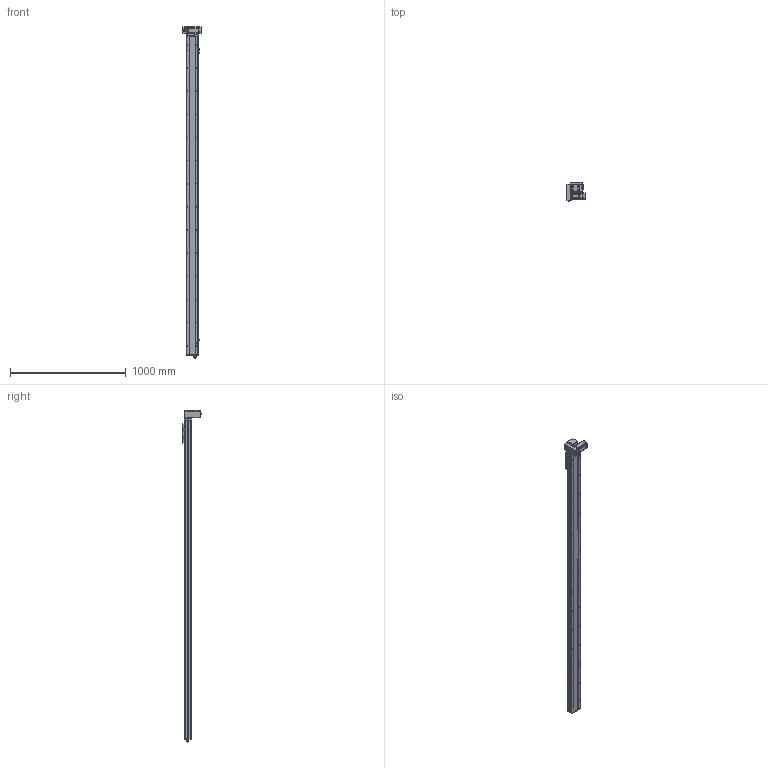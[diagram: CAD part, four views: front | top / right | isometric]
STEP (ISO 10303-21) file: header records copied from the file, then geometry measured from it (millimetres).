
FILE_DESCRIPTION (( 'STEP AP214' ), '1' );
FILE_NAME ('TPE10-L41.6-2500-LD-P20-C4.STEP', '2023-03-13T00:41:24', ( '' ), ( '' ), 'SwSTEP 2.0', 'SolidWorks 2020', '' );
FILE_SCHEMA (( 'AUTOMOTIVE_DESIGN' ));
Length unit declared in the file: millimetre
Products named in the file (16): hexagon head bolts-full thread gb_GB_FASTENER_BOLT_STBAB A M5X16-N; 葩璃 TPE10-L-002 耜裔ZTMT-102B-04^TPE10-L41.6-LD-P20-C4; 葩璃 TPT10-L-009 萇儂啣^TPE10-L41.6-LD-P20-C4_200W; TPE10-L41.6-2500-LD-P20-C4; 葩璃 TPE10 賑雄殤 TPE10^TPE10-L41.6-LD-P20-C4; hexagon socket head cap screws gb_GB_FASTENER_SCREWS_HSHCS M3X6-N; 葩璃 pm-t65-672^TPE10-L41.6-LD-P20-C4; 葩璃 侂狟100W^TPE10-L41.6-LD-P20-C4; 葩璃 侂狟400W^TPE10-L41.6-LD-P20-C4; 葩璃 詩湍75^TPE10-L41.6-LD-P20-C4; 葩璃 TPE10-007 々湍釱MZ-169x88^TPE10-L41.6-LD-P20-C4; 葩璃 TPF10 詩湍揤啣 TPF10 12^TPE10-L41.6-LD-P20-C4; hex nuts, style 1-grades ab gb_GB_FASTENER_NUT_SNAB1 M3-N; 葩璃 TPE10-L-001 菁釱MZ-102A-01^TPE10-L41.6-LD-P20-C4; 葩璃 TPF10-L-008 耜醱啣^TPE10-L41.6-LD-P20-C4; 葩璃 PL8-02^TPE10-L41.6-LD-P20-C4
Assembly tree (29 placements, depth 2):
  TPE10-L41.6-2500-LD-P20-C4
    葩璃 TPE10-L-001 菁釱MZ-102A-01^TPE10-L41.6-LD-P20-C4
    葩璃 TPE10-L-002 耜裔ZTMT-102B-04^TPE10-L41.6-LD-P20-C4  x2
    葩璃 詩湍75^TPE10-L41.6-LD-P20-C4
    葩璃 TPE10-007 々湍釱MZ-169x88^TPE10-L41.6-LD-P20-C4
    葩璃 TPF10-L-008 耜醱啣^TPE10-L41.6-LD-P20-C4
    葩璃 TPE10 賑雄殤 TPE10^TPE10-L41.6-LD-P20-C4
    葩璃 TPF10 詩湍揤啣 TPF10 12^TPE10-L41.6-LD-P20-C4  x2
    葩璃 TPT10-L-009 萇儂啣^TPE10-L41.6-LD-P20-C4_200W
    葩璃 pm-t65-672^TPE10-L41.6-LD-P20-C4  x3
    葩璃 PL8-02^TPE10-L41.6-LD-P20-C4
    葩璃 侂狟100W^TPE10-L41.6-LD-P20-C4
    葩璃 侂狟400W^TPE10-L41.6-LD-P20-C4
    hexagon socket head cap screws gb_GB_FASTENER_SCREWS_HSHCS M3X6-N  x6
    hex nuts, style 1-grades ab gb_GB_FASTENER_NUT_SNAB1 M3-N  x6
    hexagon head bolts-full thread gb_GB_FASTENER_BOLT_STBAB A M5X16-N
Bounding box: 162.5 x 162.15 x 2868.35 mm (x, y, z)
Volume: 9059232.9 mm3; surface area: 2189978.3 mm2
Topology: 37 solids, 37 shells, 2093 faces, 5361 edges, 3384 vertices
Faces by surface type: plane 1106, cylinder 669, cone 248, bspline 42, torus 26, sphere 2
Entity records: 52728 total; most frequent: CARTESIAN_POINT 10758, DIRECTION 8464, ORIENTED_EDGE 8098, EDGE_CURVE 4049, AXIS2_PLACEMENT_3D 2988, VERTEX_POINT 2611, VECTOR 2488, LINE 2488
